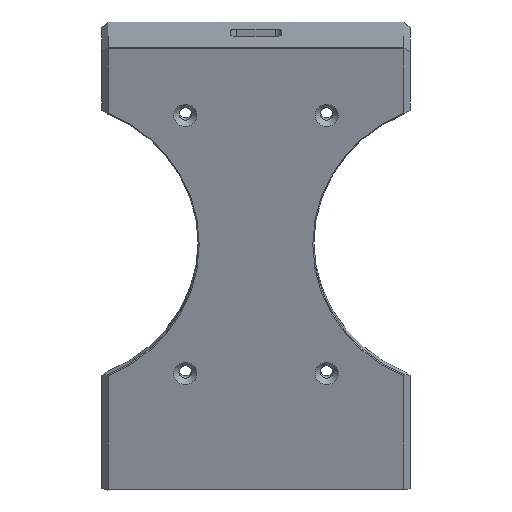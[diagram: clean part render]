
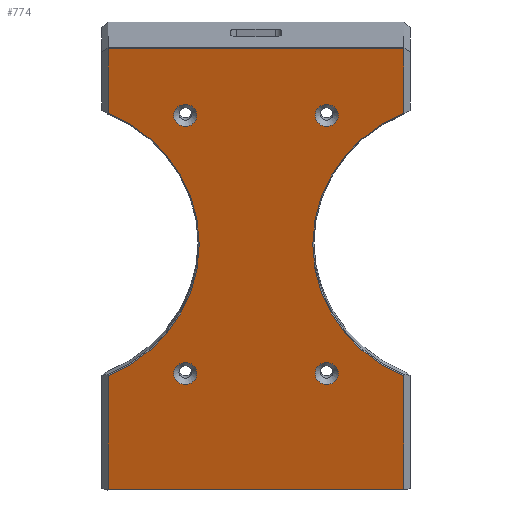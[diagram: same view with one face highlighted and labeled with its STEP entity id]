
A CAD part, top view. The second image highlights one B-rep face of the part: STEP entity #774.
In plain terms, the highlighted planar face has unit normal (0, -0.292, 0.956).
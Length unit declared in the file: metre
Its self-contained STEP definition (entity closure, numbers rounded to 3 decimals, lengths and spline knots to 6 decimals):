
#77=CIRCLE('',#847,0.0045);
#78=CIRCLE('',#848,0.0045);
#79=CIRCLE('',#849,0.0045);
#80=CIRCLE('',#850,0.0045);
#81=CIRCLE('',#851,0.0579);
#82=CIRCLE('',#852,0.0579);
#133=ORIENTED_EDGE('',*,*,#358,.T.);
#134=ORIENTED_EDGE('',*,*,#359,.T.);
#135=ORIENTED_EDGE('',*,*,#360,.T.);
#136=ORIENTED_EDGE('',*,*,#361,.T.);
#137=ORIENTED_EDGE('',*,*,#362,.T.);
#138=ORIENTED_EDGE('',*,*,#363,.T.);
#139=ORIENTED_EDGE('',*,*,#364,.T.);
#140=ORIENTED_EDGE('',*,*,#365,.T.);
#141=ORIENTED_EDGE('',*,*,#366,.T.);
#142=ORIENTED_EDGE('',*,*,#367,.T.);
#143=ORIENTED_EDGE('',*,*,#368,.T.);
#144=ORIENTED_EDGE('',*,*,#369,.T.);
#358=EDGE_CURVE('',#470,#470,#77,.F.);
#359=EDGE_CURVE('',#471,#471,#78,.F.);
#360=EDGE_CURVE('',#472,#472,#79,.F.);
#361=EDGE_CURVE('',#473,#473,#80,.F.);
#362=EDGE_CURVE('',#474,#475,#535,.T.);
#363=EDGE_CURVE('',#475,#476,#536,.T.);
#364=EDGE_CURVE('',#476,#477,#537,.T.);
#365=EDGE_CURVE('',#477,#478,#81,.F.);
#366=EDGE_CURVE('',#478,#479,#538,.T.);
#367=EDGE_CURVE('',#479,#480,#539,.T.);
#368=EDGE_CURVE('',#480,#481,#540,.T.);
#369=EDGE_CURVE('',#481,#474,#82,.F.);
#470=VERTEX_POINT('',#1254);
#471=VERTEX_POINT('',#1256);
#472=VERTEX_POINT('',#1258);
#473=VERTEX_POINT('',#1260);
#474=VERTEX_POINT('',#1262);
#475=VERTEX_POINT('',#1263);
#476=VERTEX_POINT('',#1265);
#477=VERTEX_POINT('',#1267);
#478=VERTEX_POINT('',#1269);
#479=VERTEX_POINT('',#1271);
#480=VERTEX_POINT('',#1273);
#481=VERTEX_POINT('',#1275);
#535=LINE('',#1261,#592);
#536=LINE('',#1264,#593);
#537=LINE('',#1266,#594);
#538=LINE('',#1270,#595);
#539=LINE('',#1272,#596);
#540=LINE('',#1274,#597);
#592=VECTOR('',#996,1.);
#593=VECTOR('',#997,1.);
#594=VECTOR('',#998,1.);
#595=VECTOR('',#1001,1.);
#596=VECTOR('',#1002,1.);
#597=VECTOR('',#1003,1.);
#632=EDGE_LOOP('',(#133));
#633=EDGE_LOOP('',(#134));
#634=EDGE_LOOP('',(#135));
#635=EDGE_LOOP('',(#136));
#636=EDGE_LOOP('',(#137,#138,#139,#140,#141,#142,#143,#144));
#695=FACE_BOUND('',#632,.T.);
#696=FACE_BOUND('',#633,.T.);
#697=FACE_BOUND('',#634,.T.);
#698=FACE_BOUND('',#635,.T.);
#699=FACE_BOUND('',#636,.T.);
#752=PLANE('',#846);
#774=ADVANCED_FACE('',(#695,#696,#697,#698,#699),#752,.T.);
#846=AXIS2_PLACEMENT_3D('',#1252,#986,#987);
#847=AXIS2_PLACEMENT_3D('',#1253,#988,#989);
#848=AXIS2_PLACEMENT_3D('',#1255,#990,#991);
#849=AXIS2_PLACEMENT_3D('',#1257,#992,#993);
#850=AXIS2_PLACEMENT_3D('',#1259,#994,#995);
#851=AXIS2_PLACEMENT_3D('',#1268,#999,#1000);
#852=AXIS2_PLACEMENT_3D('',#1276,#1004,#1005);
#986=DIRECTION('',(0.,-0.292,0.956));
#987=DIRECTION('',(1.,0.,0.));
#988=DIRECTION('',(0.,-0.292,0.956));
#989=DIRECTION('',(0.,-0.956,-0.292));
#990=DIRECTION('',(0.,-0.292,0.956));
#991=DIRECTION('',(0.,-0.956,-0.292));
#992=DIRECTION('',(0.,-0.292,0.956));
#993=DIRECTION('',(0.,-0.956,-0.292));
#994=DIRECTION('',(0.,-0.292,0.956));
#995=DIRECTION('',(0.,-0.956,-0.292));
#996=DIRECTION('',(0.,0.956,0.292));
#997=DIRECTION('',(-1.,0.,0.));
#998=DIRECTION('',(0.,-0.956,-0.292));
#999=DIRECTION('',(0.,-0.292,0.956));
#1000=DIRECTION('',(0.,-0.956,-0.292));
#1001=DIRECTION('',(0.,-0.956,-0.292));
#1002=DIRECTION('',(1.,0.,0.));
#1003=DIRECTION('',(0.,0.956,0.292));
#1004=DIRECTION('',(0.,-0.292,0.956));
#1005=DIRECTION('',(0.,-0.956,-0.292));
#1252=CARTESIAN_POINT('',(-0.14,-0.128957,0.046871));
#1253=CARTESIAN_POINT('',(-0.1125,-0.052452,0.070261));
#1254=CARTESIAN_POINT('',(-0.1125,-0.056756,0.068945));
#1255=CARTESIAN_POINT('',(-0.1675,-0.052452,0.070261));
#1256=CARTESIAN_POINT('',(-0.1675,-0.056756,0.068945));
#1257=CARTESIAN_POINT('',(-0.1125,-0.152864,0.039562));
#1258=CARTESIAN_POINT('',(-0.1125,-0.157168,0.038246));
#1259=CARTESIAN_POINT('',(-0.1675,-0.152864,0.039562));
#1260=CARTESIAN_POINT('',(-0.1675,-0.157168,0.038246));
#1261=CARTESIAN_POINT('',(-0.0825,-0.026154,0.078301));
#1262=CARTESIAN_POINT('',(-0.0825,-0.05164,0.070509));
#1263=CARTESIAN_POINT('',(-0.0825,-0.026536,0.078184));
#1264=CARTESIAN_POINT('',(-0.1975,-0.026536,0.078184));
#1265=CARTESIAN_POINT('',(-0.1975,-0.026536,0.078184));
#1266=CARTESIAN_POINT('',(-0.1975,-0.051104,0.070673));
#1267=CARTESIAN_POINT('',(-0.1975,-0.05164,0.070509));
#1268=CARTESIAN_POINT('',(-0.22,-0.102658,0.054911));
#1269=CARTESIAN_POINT('',(-0.1975,-0.153677,0.039313));
#1270=CARTESIAN_POINT('',(-0.1975,-0.198289,0.025674));
#1271=CARTESIAN_POINT('',(-0.1975,-0.197906,0.025791));
#1272=CARTESIAN_POINT('',(-0.0825,-0.197906,0.025791));
#1273=CARTESIAN_POINT('',(-0.0825,-0.197906,0.025791));
#1274=CARTESIAN_POINT('',(-0.0825,-0.154212,0.039149));
#1275=CARTESIAN_POINT('',(-0.0825,-0.153677,0.039313));
#1276=CARTESIAN_POINT('',(-0.06,-0.102658,0.054911));
